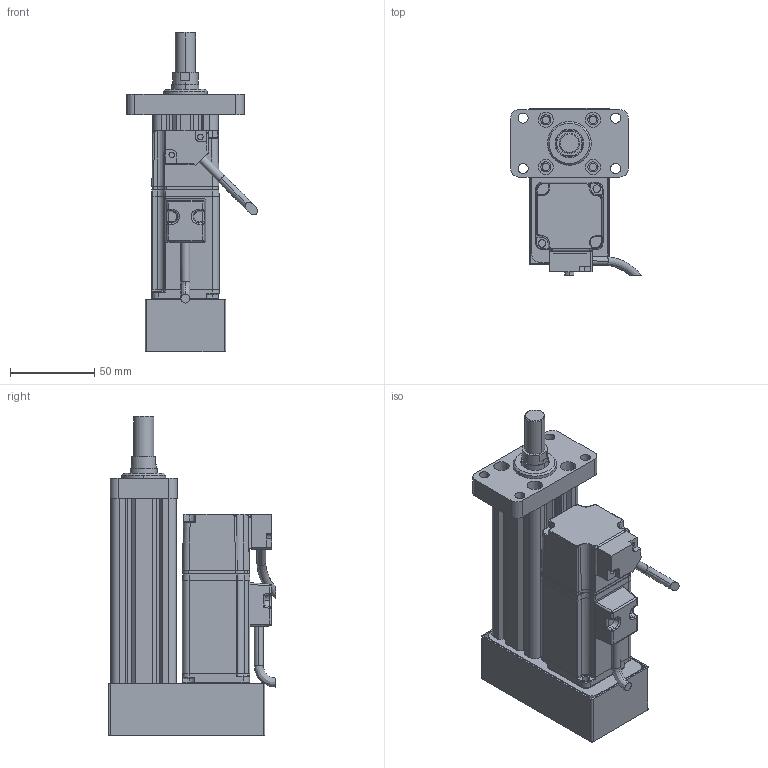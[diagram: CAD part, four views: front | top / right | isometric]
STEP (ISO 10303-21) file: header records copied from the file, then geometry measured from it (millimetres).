
FILE_DESCRIPTION (( 'STEP AP214' ), '1' );
FILE_NAME ('039-S50-D02-B-M3-C1-2.STEP', '2021-02-25T08:40:32', ( '' ), ( '' ), 'SwSTEP 2.0', 'SolidWorks 2018', '' );
FILE_SCHEMA (( 'AUTOMOTIVE_DESIGN' ));
Length unit declared in the file: millimetre
Products named in the file (7): CMC039-XT; CMC039-GT; CMC039-DT; CMC039-FL; 039-S50-D02-B-M3-C1-2; CMC039-LJB; ECMA-CX0401ES-40框號系列機種-100W低慣量系列
Assembly tree (6 placements, depth 2):
  039-S50-D02-B-M3-C1-2
    CMC039-GT
    CMC039-LJB
    CMC039-XT
    CMC039-FL
    CMC039-DT
    ECMA-CX0401ES-40框號系列機種-100W低慣量系列
Bounding box: 77.83 x 99.39 x 190 mm (x, y, z)
Volume: 357207 mm3; surface area: 115515.7 mm2
Topology: 6 solids, 14 shells, 615 faces, 1596 edges, 991 vertices
Faces by surface type: cylinder 250, plane 240, bspline 84, cone 41
Entity records: 24778 total; most frequent: CARTESIAN_POINT 10693, ORIENTED_EDGE 3126, DIRECTION 2457, EDGE_CURVE 1563, VERTEX_POINT 991, AXIS2_PLACEMENT_3D 842, VECTOR 773, LINE 773
